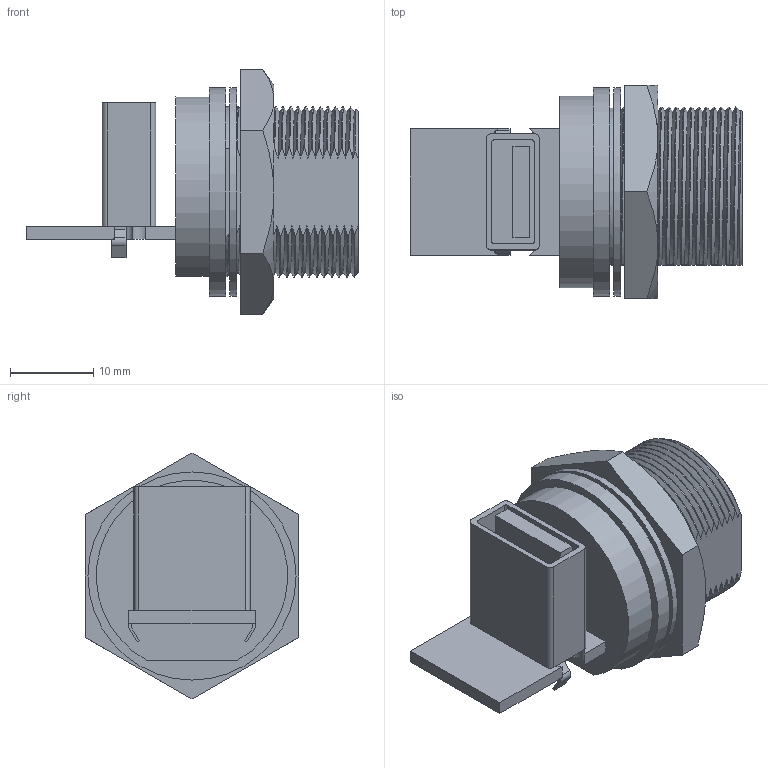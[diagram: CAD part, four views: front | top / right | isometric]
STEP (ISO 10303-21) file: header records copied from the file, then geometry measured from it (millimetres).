
FILE_DESCRIPTION(/* description */ (''),/* implementation_level */ '2;1');
FILE_NAME(/* name */ 'USB2AC-P3CRJ.stp',/* time_stamp */ '2026-04-08T16:56:14+09:00',/* author */ ('CS-05'),/* organization */ (''),/* preprocessor_version */ 'ST-DEVELOPER v19.2',/* originating_system */ 'Autodesk Inventor 2023',/* authorisation */ '');
FILE_SCHEMA (('AUTOMOTIVE_DESIGN { 1 0 10303 214 3 1 1 }'));
Length unit declared in the file: millimetre
Products named in the file (4): TB-011_USB2AC-P3CRJ_SD; TB-011_USB2AC-P3CRJ_SD1; TB-011_USB2AC-P3CRJ_SD2; TB-011_USB2AC-P3CRJ_SD3
Assembly tree (3 placements, depth 2):
  TB-011_USB2AC-P3CRJ_SD
    TB-011_USB2AC-P3CRJ_SD1
    TB-011_USB2AC-P3CRJ_SD2
    TB-011_USB2AC-P3CRJ_SD3
Bounding box: 39.9 x 25.6 x 29.56 mm (x, y, z)
Volume: 9427.9 mm3; surface area: 6829.5 mm2
Topology: 3 solids, 3 shells, 171 faces, 463 edges, 304 vertices
Faces by surface type: plane 77, cylinder 50, bspline 36, cone 8
Full cylindrical faces by diameter (mm): 20.45 x2, 25 x2
Entity records: 8428 total; most frequent: CARTESIAN_POINT 4271, ORIENTED_EDGE 926, DIRECTION 688, EDGE_CURVE 463, VERTEX_POINT 304, LINE 240, VECTOR 240, AXIS2_PLACEMENT_3D 224
